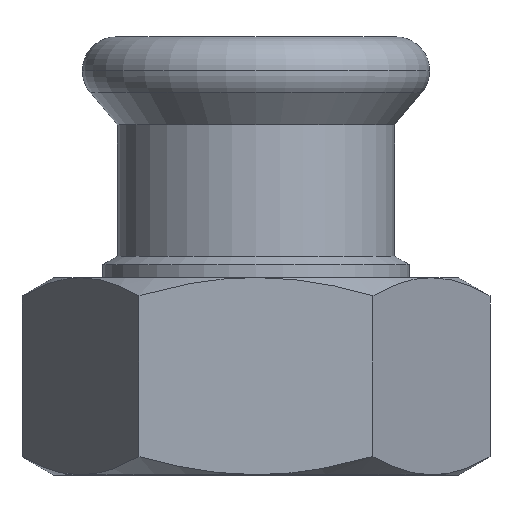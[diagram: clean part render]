
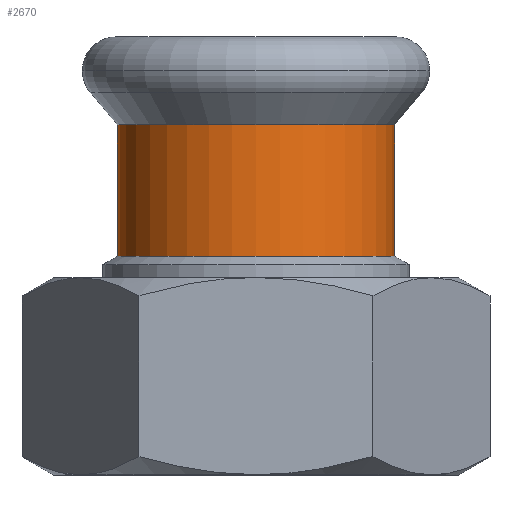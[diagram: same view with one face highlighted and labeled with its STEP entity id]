
A CAD part, top view. The second image highlights one B-rep face of the part: STEP entity #2670.
In plain terms, the highlighted cylindrical face has radius 12.65 mm (diameter 25.3 mm), a partial arc.
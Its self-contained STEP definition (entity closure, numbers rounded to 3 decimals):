
#2020=CARTESIAN_POINT('',(-306.641,56.893,0.));
#2030=VERTEX_POINT('',#2020);
#2210=CARTESIAN_POINT('',(-331.941,56.893,
0.));
#2220=VERTEX_POINT('',#2210);
#2250=CARTESIAN_POINT('',(-319.291,56.893,0.));
#2260=DIRECTION('',(0.,1.,0.));
#2270=DIRECTION('',(-1.,0.,0.));
#2280=AXIS2_PLACEMENT_3D('',#2250,#2260,#2270);
#2290=CIRCLE('',#2280,12.65);
#2350=CARTESIAN_POINT('',(-319.291,50.141,0.));
#2360=DIRECTION('',(0.,-1.,0.));
#2370=DIRECTION('',(-1.,0.,0.));
#2380=AXIS2_PLACEMENT_3D('',#2350,#2360,#2370);
#2390=CYLINDRICAL_SURFACE('',#2380,12.65);
#2400=CARTESIAN_POINT('',(-331.941,50.141,0.));
#2410=DIRECTION('',(0.,-1.,0.));
#2420=VECTOR('',#2410,1.);
#2430=LINE('',#2400,#2420);
#2440=CARTESIAN_POINT('',(-331.941,44.906,0.));
#2450=VERTEX_POINT('',#2440);
#2460=EDGE_CURVE('',#2220,#2450,#2430,.T.);
#2470=ORIENTED_EDGE('',*,*,#2460,.T.);
#2480=EDGE_CURVE('',#2220,#2030,#2290,.T.);
#2490=ORIENTED_EDGE('',*,*,#2480,.F.);
#2500=CARTESIAN_POINT('',(-306.641,50.141,
0.));
#2510=DIRECTION('',(0.,-1.,0.));
#2520=VECTOR('',#2510,1.);
#2530=LINE('',#2500,#2520);
#2540=CARTESIAN_POINT('',(-306.641,44.906,
0.));
#2550=VERTEX_POINT('',#2540);
#2560=EDGE_CURVE('',#2030,#2550,#2530,.T.);
#2570=ORIENTED_EDGE('',*,*,#2560,.F.);
#2580=CARTESIAN_POINT('',(-319.291,44.906,0.));
#2590=DIRECTION('',(0.,-1.,0.));
#2600=DIRECTION('',(-1.,0.,0.));
#2610=AXIS2_PLACEMENT_3D('',#2580,#2590,#2600);
#2620=CIRCLE('',#2610,12.65);
#2630=EDGE_CURVE('',#2550,#2450,#2620,.T.);
#2640=ORIENTED_EDGE('',*,*,#2630,.F.);
#2650=EDGE_LOOP('',(#2640,#2570,#2490,#2470));
#2660=FACE_OUTER_BOUND('',#2650,.T.);
#2670=ADVANCED_FACE('',(#2660),#2390,.T.);
